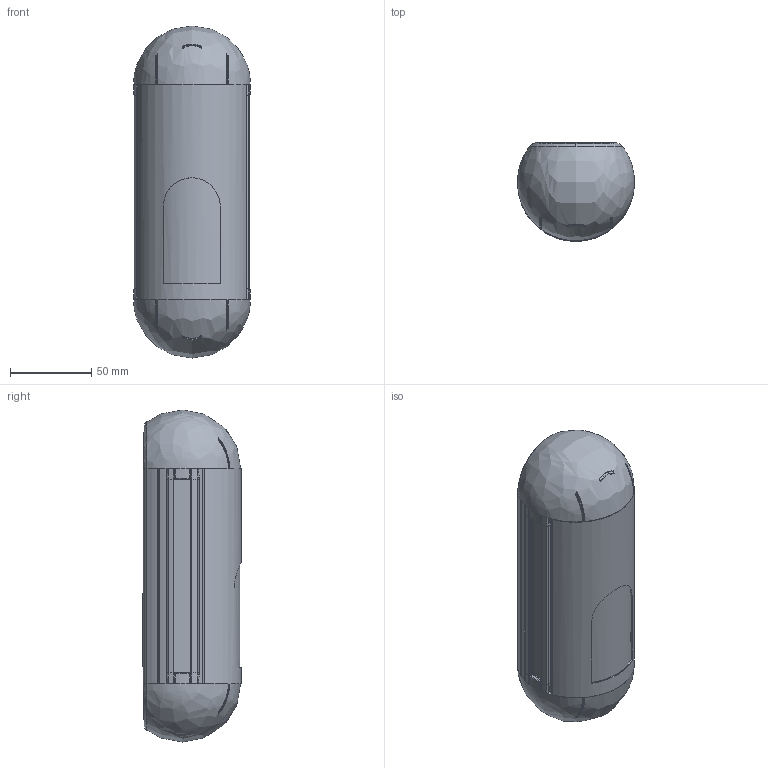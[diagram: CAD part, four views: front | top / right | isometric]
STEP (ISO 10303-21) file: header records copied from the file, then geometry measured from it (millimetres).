
FILE_DESCRIPTION (( 'STEP AP203' ), '1' );
FILE_NAME ('PolarICE_6.STEP', '2023-01-12T10:02:14', ( '' ), ( '' ), 'SwSTEP 2.0', 'SolidWorks 2021', '' );
FILE_SCHEMA (( 'CONFIG_CONTROL_DESIGN' ));
Length unit declared in the file: millimetre
Products named in the file (1): PolarICE_6
Bounding box: 72 x 60.72 x 204.5 mm (x, y, z)
Volume: 638175.2 mm3; surface area: 82041.7 mm2
Topology: 1 solids, 30 shells, 1973 faces, 5423 edges, 3482 vertices
Faces by surface type: plane 969, cylinder 369, bspline 354, cone 281
Entity records: 88513 total; most frequent: CARTESIAN_POINT 41346, ORIENTED_EDGE 10804, DIRECTION 8583, EDGE_CURVE 5402, VERTEX_POINT 3482, AXIS2_PLACEMENT_3D 2894, LINE 2795, VECTOR 2795
